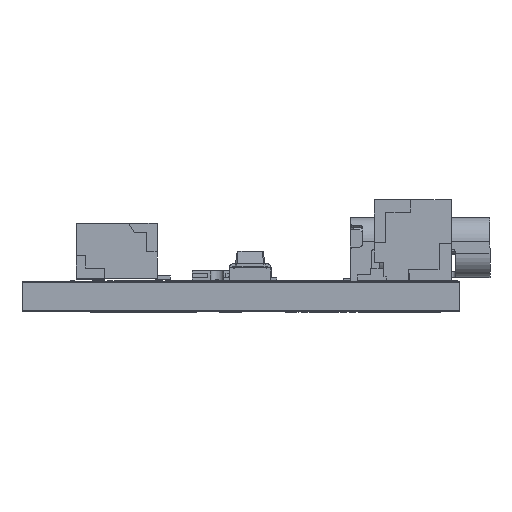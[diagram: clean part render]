
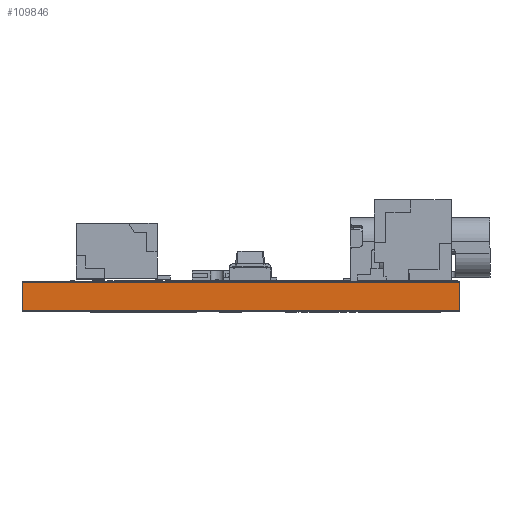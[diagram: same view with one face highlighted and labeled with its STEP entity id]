
A CAD part, left-side view. The second image highlights one B-rep face of the part: STEP entity #109846.
In plain terms, the highlighted planar face has unit normal (-1, 0, 0).
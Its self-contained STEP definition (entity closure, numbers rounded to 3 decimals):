
#109169 = VERTEX_POINT('',#109170);
#109170 = CARTESIAN_POINT('',(0.,23.,0.));
#109176 = EDGE_CURVE('',#109177,#109169,#109179,.T.);
#109177 = VERTEX_POINT('',#109178);
#109178 = CARTESIAN_POINT('',(0.,-0.,0.));
#109179 = LINE('',#109180,#109181);
#109180 = CARTESIAN_POINT('',(0.,-0.,0.));
#109181 = VECTOR('',#109182,1.);
#109182 = DIRECTION('',(0.,1.,0.));
#109494 = VERTEX_POINT('',#109495);
#109495 = CARTESIAN_POINT('',(0.,23.,1.51));
#109501 = EDGE_CURVE('',#109502,#109494,#109504,.T.);
#109502 = VERTEX_POINT('',#109503);
#109503 = CARTESIAN_POINT('',(0.,0.,1.51));
#109504 = LINE('',#109505,#109506);
#109505 = CARTESIAN_POINT('',(0.,0.,1.51));
#109506 = VECTOR('',#109507,1.);
#109507 = DIRECTION('',(0.,1.,0.));
#109816 = EDGE_CURVE('',#109169,#109494,#109817,.T.);
#109817 = LINE('',#109818,#109819);
#109818 = CARTESIAN_POINT('',(0.,23.,0.));
#109819 = VECTOR('',#109820,1.);
#109820 = DIRECTION('',(0.,0.,1.));
#109846 = ADVANCED_FACE('',(#109847),#109858,.T.);
#109847 = FACE_BOUND('',#109848,.T.);
#109848 = EDGE_LOOP('',(#109849,#109855,#109856,#109857));
#109849 = ORIENTED_EDGE('',*,*,#109850,.T.);
#109850 = EDGE_CURVE('',#109177,#109502,#109851,.T.);
#109851 = LINE('',#109852,#109853);
#109852 = CARTESIAN_POINT('',(0.,-0.,0.));
#109853 = VECTOR('',#109854,1.);
#109854 = DIRECTION('',(0.,0.,1.));
#109855 = ORIENTED_EDGE('',*,*,#109501,.T.);
#109856 = ORIENTED_EDGE('',*,*,#109816,.F.);
#109857 = ORIENTED_EDGE('',*,*,#109176,.F.);
#109858 = PLANE('',#109859);
#109859 = AXIS2_PLACEMENT_3D('',#109860,#109861,#109862);
#109860 = CARTESIAN_POINT('',(0.,0.,0.));
#109861 = DIRECTION('',(-1.,0.,0.));
#109862 = DIRECTION('',(0.,1.,0.));
